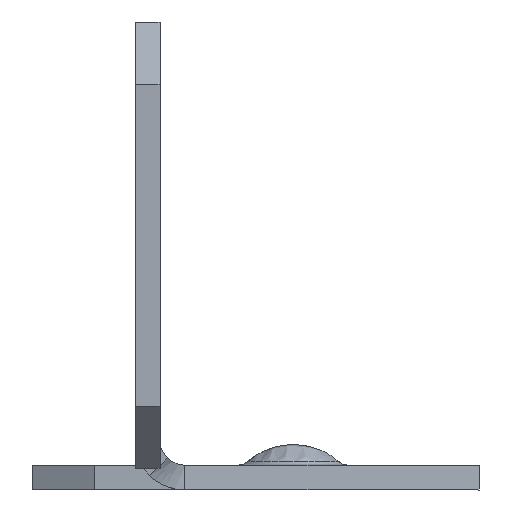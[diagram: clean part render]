
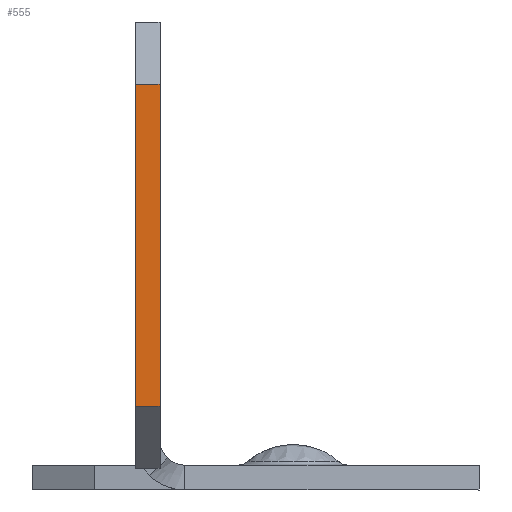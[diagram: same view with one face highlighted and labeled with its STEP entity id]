
A CAD part, front view. The second image highlights one B-rep face of the part: STEP entity #555.
In plain terms, the highlighted planar face has unit normal (0, -1, 0).
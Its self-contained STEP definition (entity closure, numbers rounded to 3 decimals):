
#24 = CARTESIAN_POINT ( 'NONE',  ( -9.738, -105., -13.131 ) ) ;
#75 = FACE_OUTER_BOUND ( 'NONE', #2110, .T. ) ;
#229 = ORIENTED_EDGE ( 'NONE', *, *, #2763, .T. ) ;
#555 = ADVANCED_FACE ( 'NONE', ( #75 ), #2510, .T. ) ;
#571 = VECTOR ( 'NONE', #2051, 1000. ) ;
#573 = VERTEX_POINT ( 'NONE', #2282 ) ;
#942 = CARTESIAN_POINT ( 'NONE',  ( -7.738, -105., -17.917 ) ) ;
#999 = CARTESIAN_POINT ( 'NONE',  ( -7.738, -105., 17.869 ) ) ;
#1024 = EDGE_CURVE ( 'NONE', #1944, #2346, #2791, .T. ) ;
#1035 = EDGE_CURVE ( 'NONE', #1544, #573, #1241, .T. ) ;
#1066 = CARTESIAN_POINT ( 'NONE',  ( -9.738, -105., 17.869 ) ) ;
#1086 = DIRECTION ( 'NONE',  ( 0., -1., 0. ) ) ;
#1142 = LINE ( 'NONE', #1066, #571 ) ;
#1170 = CARTESIAN_POINT ( 'NONE',  ( -9.738, -105., 17.869 ) ) ;
#1171 = ORIENTED_EDGE ( 'NONE', *, *, #1024, .T. ) ;
#1190 = DIRECTION ( 'NONE',  ( 1., 0., 0. ) ) ;
#1241 = LINE ( 'NONE', #942, #1577 ) ;
#1486 = VECTOR ( 'NONE', #1190, 1000. ) ;
#1544 = VERTEX_POINT ( 'NONE', #999 ) ;
#1577 = VECTOR ( 'NONE', #2376, 1000. ) ;
#1776 = ORIENTED_EDGE ( 'NONE', *, *, #2141, .T. ) ;
#1944 = VERTEX_POINT ( 'NONE', #1170 ) ;
#1953 = VECTOR ( 'NONE', #2633, 1000. ) ;
#2051 = DIRECTION ( 'NONE',  ( -1., 0., 0. ) ) ;
#2052 = ORIENTED_EDGE ( 'NONE', *, *, #1035, .F. ) ;
#2110 = EDGE_LOOP ( 'NONE', ( #229, #1171, #1776, #2052 ) ) ;
#2141 = EDGE_CURVE ( 'NONE', #2346, #573, #2177, .T. ) ;
#2169 = CARTESIAN_POINT ( 'NONE',  ( -9.738, -105., -8.131 ) ) ;
#2177 = LINE ( 'NONE', #2169, #1486 ) ;
#2282 = CARTESIAN_POINT ( 'NONE',  ( -7.738, -105., -8.131 ) ) ;
#2291 = DIRECTION ( 'NONE',  ( -1., 0., 0. ) ) ;
#2346 = VERTEX_POINT ( 'NONE', #2480 ) ;
#2376 = DIRECTION ( 'NONE',  ( 0., 0., -1. ) ) ;
#2480 = CARTESIAN_POINT ( 'NONE',  ( -9.738, -105., -8.131 ) ) ;
#2491 = AXIS2_PLACEMENT_3D ( 'NONE', #3007, #1086, #2291 ) ;
#2510 = PLANE ( 'NONE',  #2491 ) ;
#2633 = DIRECTION ( 'NONE',  ( 0., 0., -1. ) ) ;
#2763 = EDGE_CURVE ( 'NONE', #1544, #1944, #1142, .T. ) ;
#2791 = LINE ( 'NONE', #24, #1953 ) ;
#3007 = CARTESIAN_POINT ( 'NONE',  ( -9.738, -105., -13.131 ) ) ;
